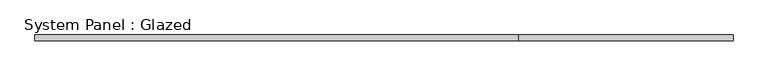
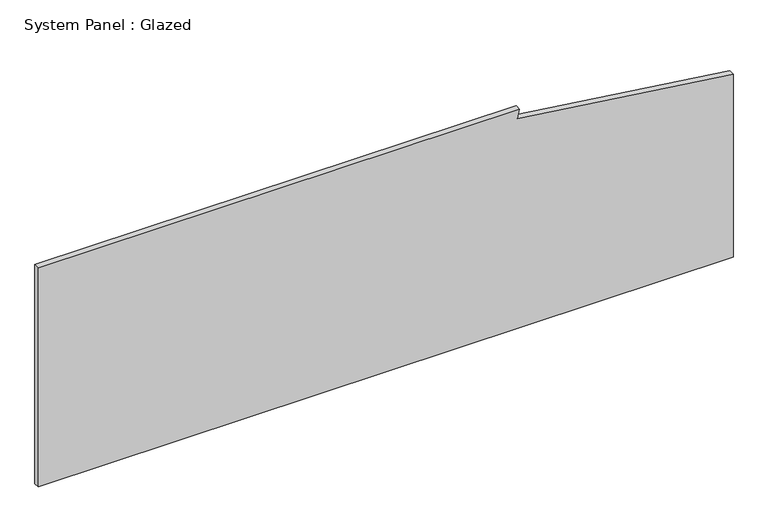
"""IFC4 building model written with IfcOpenShell, lengths in millimetres: plate geometry, System Panel : Glazed."""

from ifc_helpers import new_model, si_unit, frame, origin, place, context, project, spatial, polyline, outline, extrude, source, transform, mapped, element, save


def system_panel_glazed_6d8562a1(model_context):
    return source(origin(), model_context, "Body", "SweptSolid", [
        extrude(outline(polyline([(0.0, -1504.95), (0.0, 1504.95), (839.1424418, 1504.95), (963.1567593, 569.9626087), (1003.3, 579.4983428), (1003.3, -1504.95), (0.0, -1504.95)])), frame((0.0, 19.05, 0.0), z_axis=(0.0, 1.0, 0.0), x_axis=(0.0, 0.0, 1.0)), (0.0, 0.0, 1.0), 25.4),
    ])


if __name__ == "__main__":
    model = new_model("IFC4")
    model_context = context("Model", 3, world=origin())
    ifc_project = project(units=[si_unit("LENGTHUNIT", "METRE", prefix="MILLI")], contexts=[model_context])
    site = spatial("IfcSite", under=ifc_project)
    building = spatial("IfcBuilding", under=site)
    placement = place(None, origin())
    system_panel_glazed_shape = system_panel_glazed_6d8562a1(model_context)
    element("IfcPlate", 1, ObjectType="System Panel : Glazed", at=placement, inside=building, context=model_context, shape_type="MappedRepresentation", body=[
        mapped(system_panel_glazed_shape, transform((0.0, 0.0, 0.0), x_axis=(1.0, 0.0, 0.0), y_axis=(0.0, 1.0, 0.0), z_axis=(0.0, 0.0, 1.0))),
    ])
    save(model, "model.ifc")
